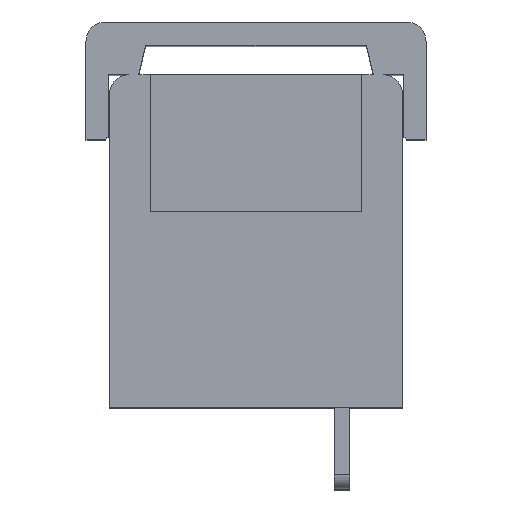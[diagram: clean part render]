
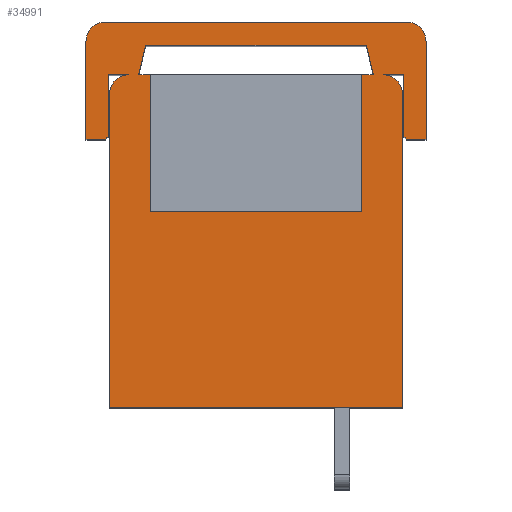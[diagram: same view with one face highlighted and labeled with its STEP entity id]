
A CAD part, top view. The second image highlights one B-rep face of the part: STEP entity #34991.
In plain terms, the highlighted planar face has unit normal (0, 0, 1).
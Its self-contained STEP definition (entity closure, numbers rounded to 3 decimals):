
#4826=DIRECTION('',(-1.,0.,0.));
#4827=VECTOR('',#4826,1.05);
#4828=CARTESIAN_POINT('',(1.,17.,-28.25));
#4829=LINE('',#4828,#4827);
#4904=DIRECTION('',(0.,-1.,0.));
#4905=VECTOR('',#4904,3.15);
#4906=CARTESIAN_POINT('',(-0.05,17.,-28.25));
#4907=LINE('',#4906,#4905);
#5190=DIRECTION('',(0.,1.,0.));
#5191=VECTOR('',#5190,16.);
#5192=CARTESIAN_POINT('',(0.,0.,-28.25));
#5193=LINE('',#5192,#5191);
#5363=DIRECTION('',(-1.,0.,0.));
#5364=VECTOR('',#5363,11.3);
#5365=CARTESIAN_POINT('',(13.15,18.5,-28.25));
#5366=LINE('',#5365,#5364);
#5395=DIRECTION('',(1.,0.,0.));
#5396=VECTOR('',#5395,0.6);
#5397=CARTESIAN_POINT('',(12.9,17.,-28.25));
#5398=LINE('',#5397,#5396);
#5403=DIRECTION('',(1.,0.,0.));
#5404=VECTOR('',#5403,0.6);
#5405=CARTESIAN_POINT('',(1.5,17.,-28.25));
#5406=LINE('',#5405,#5404);
#5411=CARTESIAN_POINT('',(1.,16.,-28.25));
#5412=DIRECTION('',(0.,0.,1.));
#5413=DIRECTION('',(0.,1.,0.));
#5414=AXIS2_PLACEMENT_3D('',#5411,#5412,#5413);
#5416=DIRECTION('',(0.707,0.707,0.));
#5417=VECTOR('',#5416,0.212);
#5418=CARTESIAN_POINT('',(-0.2,13.7,-28.25));
#5419=LINE('',#5418,#5417);
#5420=CARTESIAN_POINT('',(-0.2,18.7,-28.25));
#5421=DIRECTION('',(0.,0.,1.));
#5422=DIRECTION('',(0.,1.,0.));
#5423=AXIS2_PLACEMENT_3D('',#5420,#5421,#5422);
#5425=CARTESIAN_POINT('',(15.2,18.7,-28.25));
#5426=DIRECTION('',(0.,0.,1.));
#5427=DIRECTION('',(1.,0.,0.));
#5428=AXIS2_PLACEMENT_3D('',#5425,#5426,#5427);
#5430=DIRECTION('',(0.707,-0.707,0.));
#5431=VECTOR('',#5430,0.212);
#5432=CARTESIAN_POINT('',(15.05,13.85,-28.25));
#5433=LINE('',#5432,#5431);
#5434=CARTESIAN_POINT('',(14.,16.,-28.25));
#5435=DIRECTION('',(0.,0.,1.));
#5436=DIRECTION('',(1.,0.,0.));
#5437=AXIS2_PLACEMENT_3D('',#5434,#5435,#5436);
#5439=DIRECTION('',(0.,1.,0.));
#5440=VECTOR('',#5439,16.);
#5441=CARTESIAN_POINT('',(15.,0.,-28.25));
#5442=LINE('',#5441,#5440);
#5443=DIRECTION('',(1.,0.,0.));
#5444=VECTOR('',#5443,15.);
#5445=CARTESIAN_POINT('',(0.,0.,-28.25));
#5446=LINE('',#5445,#5444);
#5447=DIRECTION('',(0.227,-0.974,0.));
#5448=VECTOR('',#5447,1.54);
#5449=CARTESIAN_POINT('',(13.15,18.5,-28.25));
#5450=LINE('',#5449,#5448);
#5451=DIRECTION('',(0.227,0.974,0.));
#5452=VECTOR('',#5451,1.54);
#5453=CARTESIAN_POINT('',(1.5,17.,-28.25));
#5454=LINE('',#5453,#5452);
#5467=DIRECTION('',(-1.,0.,0.));
#5468=VECTOR('',#5467,1.);
#5469=CARTESIAN_POINT('',(-0.2,13.7,-28.25));
#5470=LINE('',#5469,#5468);
#5483=DIRECTION('',(0.,1.,0.));
#5484=VECTOR('',#5483,5.);
#5485=CARTESIAN_POINT('',(-1.2,13.7,-28.25));
#5486=LINE('',#5485,#5484);
#5495=DIRECTION('',(1.,0.,0.));
#5496=VECTOR('',#5495,15.4);
#5497=CARTESIAN_POINT('',(-0.2,19.7,-28.25));
#5498=LINE('',#5497,#5496);
#5507=DIRECTION('',(0.,-1.,0.));
#5508=VECTOR('',#5507,5.);
#5509=CARTESIAN_POINT('',(16.2,18.7,-28.25));
#5510=LINE('',#5509,#5508);
#5519=DIRECTION('',(-1.,0.,0.));
#5520=VECTOR('',#5519,1.);
#5521=CARTESIAN_POINT('',(16.2,13.7,-28.25));
#5522=LINE('',#5521,#5520);
#5585=DIRECTION('',(0.,1.,0.));
#5586=VECTOR('',#5585,3.15);
#5587=CARTESIAN_POINT('',(15.05,13.85,-28.25));
#5588=LINE('',#5587,#5586);
#6238=DIRECTION('',(-1.,0.,0.));
#6239=VECTOR('',#6238,1.05);
#6240=CARTESIAN_POINT('',(15.05,17.,-28.25));
#6241=LINE('',#6240,#6239);
#21031=DIRECTION('',(0.,-1.,0.));
#21032=VECTOR('',#21031,7.);
#21033=CARTESIAN_POINT('',(2.1,17.,-28.25));
#21034=LINE('',#21033,#21032);
#21059=DIRECTION('',(0.,1.,0.));
#21060=VECTOR('',#21059,7.);
#21061=CARTESIAN_POINT('',(12.9,10.,-28.25));
#21062=LINE('',#21061,#21060);
#21067=DIRECTION('',(1.,0.,0.));
#21068=VECTOR('',#21067,10.8);
#21069=CARTESIAN_POINT('',(2.1,10.,-28.25));
#21070=LINE('',#21069,#21068);
#24396=CARTESIAN_POINT('',(0.,0.,-28.25));
#24397=VERTEX_POINT('',#24396);
#24398=CARTESIAN_POINT('',(15.,0.,-28.25));
#24399=VERTEX_POINT('',#24398);
#24440=CARTESIAN_POINT('',(15.,16.,-28.25));
#24441=VERTEX_POINT('',#24440);
#24450=CARTESIAN_POINT('',(2.1,10.,-28.25));
#24451=CARTESIAN_POINT('',(12.9,10.,-28.25));
#24452=VERTEX_POINT('',#24450);
#24453=VERTEX_POINT('',#24451);
#24454=CARTESIAN_POINT('',(12.9,17.,-28.25));
#24455=VERTEX_POINT('',#24454);
#24456=CARTESIAN_POINT('',(0.,16.,-28.25));
#24457=VERTEX_POINT('',#24456);
#24458=CARTESIAN_POINT('',(2.1,17.,-28.25));
#24459=VERTEX_POINT('',#24458);
#25276=CARTESIAN_POINT('',(-0.2,13.7,-28.25));
#25277=CARTESIAN_POINT('',(-0.05,13.85,-28.25));
#25278=VERTEX_POINT('',#25276);
#25279=VERTEX_POINT('',#25277);
#25280=CARTESIAN_POINT('',(-1.2,13.7,-28.25));
#25281=VERTEX_POINT('',#25280);
#25282=CARTESIAN_POINT('',(-1.2,18.7,-28.25));
#25283=VERTEX_POINT('',#25282);
#25284=CARTESIAN_POINT('',(-0.2,19.7,-28.25));
#25285=VERTEX_POINT('',#25284);
#25286=CARTESIAN_POINT('',(15.2,19.7,-28.25));
#25287=VERTEX_POINT('',#25286);
#25288=CARTESIAN_POINT('',(16.2,18.7,-28.25));
#25289=VERTEX_POINT('',#25288);
#25290=CARTESIAN_POINT('',(16.2,13.7,-28.25));
#25291=VERTEX_POINT('',#25290);
#25292=CARTESIAN_POINT('',(15.2,13.7,-28.25));
#25293=VERTEX_POINT('',#25292);
#25294=CARTESIAN_POINT('',(15.05,13.85,-28.25));
#25295=VERTEX_POINT('',#25294);
#25296=CARTESIAN_POINT('',(15.05,17.,-28.25));
#25297=VERTEX_POINT('',#25296);
#25298=CARTESIAN_POINT('',(13.15,18.5,-28.25));
#25299=CARTESIAN_POINT('',(1.85,18.5,-28.25));
#25300=VERTEX_POINT('',#25298);
#25301=VERTEX_POINT('',#25299);
#25302=CARTESIAN_POINT('',(-0.05,17.,-28.25));
#25303=VERTEX_POINT('',#25302);
#26455=CARTESIAN_POINT('',(13.5,17.,-28.25));
#26457=VERTEX_POINT('',#26455);
#26459=CARTESIAN_POINT('',(1.5,17.,-28.25));
#26461=VERTEX_POINT('',#26459);
#26463=CARTESIAN_POINT('',(1.,17.,-28.25));
#26465=VERTEX_POINT('',#26463);
#26472=CARTESIAN_POINT('',(14.,17.,-28.25));
#26473=VERTEX_POINT('',#26472);
#34938=CARTESIAN_POINT('',(7.5,0.,-28.25));
#34939=DIRECTION('',(0.,0.,1.));
#34940=DIRECTION('',(1.,0.,0.));
#34941=AXIS2_PLACEMENT_3D('',#34938,#34939,#34940);
#34942=PLANE('',#34941);
#34944=ORIENTED_EDGE('',*,*,#34943,.F.);
#34945=ORIENTED_EDGE('',*,*,#34078,.T.);
#34946=ORIENTED_EDGE('',*,*,#34117,.T.);
#34948=ORIENTED_EDGE('',*,*,#34947,.F.);
#34950=ORIENTED_EDGE('',*,*,#34949,.T.);
#34952=ORIENTED_EDGE('',*,*,#34951,.T.);
#34954=ORIENTED_EDGE('',*,*,#34953,.F.);
#34956=ORIENTED_EDGE('',*,*,#34955,.T.);
#34958=ORIENTED_EDGE('',*,*,#34957,.F.);
#34960=ORIENTED_EDGE('',*,*,#34959,.T.);
#34962=ORIENTED_EDGE('',*,*,#34961,.T.);
#34964=ORIENTED_EDGE('',*,*,#34963,.F.);
#34966=ORIENTED_EDGE('',*,*,#34965,.T.);
#34968=ORIENTED_EDGE('',*,*,#34967,.T.);
#34970=ORIENTED_EDGE('',*,*,#34969,.F.);
#34972=ORIENTED_EDGE('',*,*,#34971,.F.);
#34974=ORIENTED_EDGE('',*,*,#34973,.F.);
#34975=ORIENTED_EDGE('',*,*,#34556,.T.);
#34976=EDGE_LOOP('',(#34944,#34945,#34946,#34948,#34950,#34952,#34954,#34956,
#34958,#34960,#34962,#34964,#34966,#34968,#34970,#34972,#34974,#34975));
#34977=FACE_OUTER_BOUND('',#34976,.F.);
#34978=ORIENTED_EDGE('',*,*,#34916,.T.);
#34979=ORIENTED_EDGE('',*,*,#34852,.F.);
#34980=ORIENTED_EDGE('',*,*,#34879,.T.);
#34981=ORIENTED_EDGE('',*,*,#34896,.F.);
#34982=ORIENTED_EDGE('',*,*,#34924,.T.);
#34984=ORIENTED_EDGE('',*,*,#34983,.T.);
#34986=ORIENTED_EDGE('',*,*,#34985,.T.);
#34988=ORIENTED_EDGE('',*,*,#34987,.T.);
#34989=EDGE_LOOP('',(#34978,#34979,#34980,#34981,#34982,#34984,#34986,#34988));
#34990=FACE_BOUND('',#34989,.F.);
#34991=ADVANCED_FACE('',(#34977,#34990),#34942,.T.);
#5415=CIRCLE('',#5414,1.);
#5424=CIRCLE('',#5423,1.);
#5429=CIRCLE('',#5428,1.);
#5438=CIRCLE('',#5437,1.);
#34078=EDGE_CURVE('',#26465,#25303,#4829,.T.);
#34117=EDGE_CURVE('',#25303,#25279,#4907,.T.);
#34556=EDGE_CURVE('',#24397,#24457,#5193,.T.);
#34852=EDGE_CURVE('',#25300,#26457,#5450,.T.);
#34879=EDGE_CURVE('',#25300,#25301,#5366,.T.);
#34896=EDGE_CURVE('',#26461,#25301,#5454,.T.);
#34916=EDGE_CURVE('',#24455,#26457,#5398,.T.);
#34924=EDGE_CURVE('',#26461,#24459,#5406,.T.);
#34943=EDGE_CURVE('',#26465,#24457,#5415,.T.);
#34947=EDGE_CURVE('',#25278,#25279,#5419,.T.);
#34949=EDGE_CURVE('',#25278,#25281,#5470,.T.);
#34951=EDGE_CURVE('',#25281,#25283,#5486,.T.);
#34953=EDGE_CURVE('',#25285,#25283,#5424,.T.);
#34955=EDGE_CURVE('',#25285,#25287,#5498,.T.);
#34957=EDGE_CURVE('',#25289,#25287,#5429,.T.);
#34959=EDGE_CURVE('',#25289,#25291,#5510,.T.);
#34961=EDGE_CURVE('',#25291,#25293,#5522,.T.);
#34963=EDGE_CURVE('',#25295,#25293,#5433,.T.);
#34965=EDGE_CURVE('',#25295,#25297,#5588,.T.);
#34967=EDGE_CURVE('',#25297,#26473,#6241,.T.);
#34969=EDGE_CURVE('',#24441,#26473,#5438,.T.);
#34971=EDGE_CURVE('',#24399,#24441,#5442,.T.);
#34973=EDGE_CURVE('',#24397,#24399,#5446,.T.);
#34983=EDGE_CURVE('',#24459,#24452,#21034,.T.);
#34985=EDGE_CURVE('',#24452,#24453,#21070,.T.);
#34987=EDGE_CURVE('',#24453,#24455,#21062,.T.);
